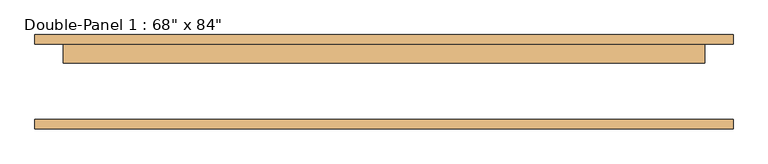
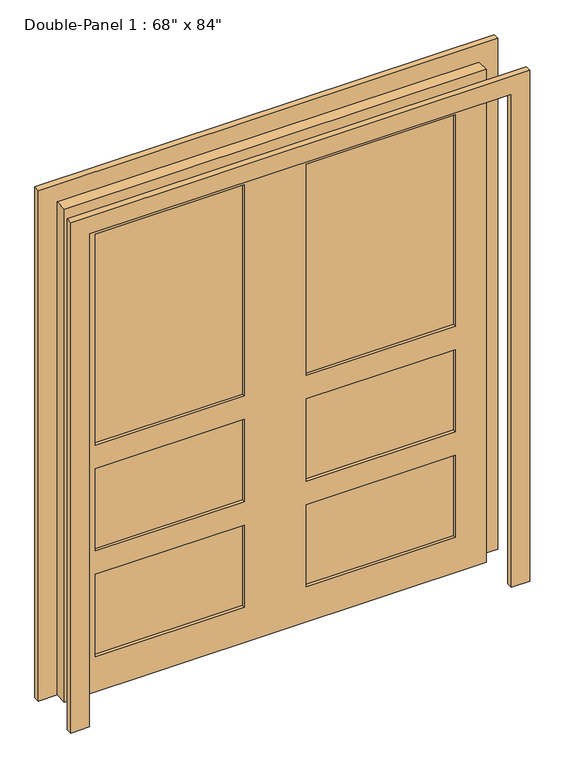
"""IFC4 building model written with IfcOpenShell, lengths in millimetres: door geometry."""

from ifc_helpers import new_model, si_unit, frame, origin, place, context, project, spatial, polyline, outline, extrude, source, transform, mapped, element, save


def door_5eeea989(model_context):
    return source(origin(), model_context, "Body", "SweptSolid", [
        extrude(outline(polyline([(2209.8, -939.8), (0.0, -939.8), (0.0, -863.6), (2133.6, -863.6), (2133.6, 863.6), (0.0, 863.6), (0.0, 939.8), (2209.8, 939.8), (2209.8, -939.8)])), frame((0.0, 101.6, 0.0), z_axis=(0.0, 1.0, 0.0), x_axis=(0.0, 0.0, 1.0)), (0.0, 0.0, 1.0), 25.4),
        extrude(outline(polyline([(127.0, 88.9), (736.6, 88.9), (736.6, 63.5), (127.0, 63.5), (127.0, 88.9)])), frame((0.0, 0.0, 1066.8), z_axis=(0.0, 0.0, 1.0), x_axis=(1.0, 0.0, 0.0)), (0.0, 0.0, 1.0), 914.4),
        extrude(outline(polyline([(127.0, 88.9), (736.6, 88.9), (736.6, 63.5), (127.0, 63.5), (127.0, 88.9)])), frame((0.0, 0.0, 609.6), z_axis=(0.0, 0.0, 1.0), x_axis=(1.0, 0.0, 0.0)), (0.0, 0.0, 1.0), 355.6),
        extrude(outline(polyline([(127.0, 88.9), (736.6, 88.9), (736.6, 63.5), (127.0, 63.5), (127.0, 88.9)])), frame((0.0, 0.0, 152.4), z_axis=(0.0, 0.0, 1.0), x_axis=(1.0, 0.0, 0.0)), (0.0, 0.0, 1.0), 355.6),
        extrude(outline(polyline([(-736.6, 88.9), (-127.0, 88.9), (-127.0, 63.5), (-736.6, 63.5), (-736.6, 88.9)])), frame((0.0, 0.0, 1066.8), z_axis=(0.0, 0.0, 1.0), x_axis=(1.0, 0.0, 0.0)), (0.0, 0.0, 1.0), 914.4),
        extrude(outline(polyline([(-736.6, 88.9), (-127.0, 88.9), (-127.0, 63.5), (-736.6, 63.5), (-736.6, 88.9)])), frame((0.0, 0.0, 609.6), z_axis=(0.0, 0.0, 1.0), x_axis=(1.0, 0.0, 0.0)), (0.0, 0.0, 1.0), 355.6),
        extrude(outline(polyline([(-736.6, 88.9), (-127.0, 88.9), (-127.0, 63.5), (-736.6, 63.5), (-736.6, 88.9)])), frame((0.0, 0.0, 152.4), z_axis=(0.0, 0.0, 1.0), x_axis=(1.0, 0.0, 0.0)), (0.0, 0.0, 1.0), 355.6),
        extrude(outline(polyline([(2133.6, -863.6), (0.0, -863.6), (0.0, 863.6), (2133.6, 863.6), (2133.6, -863.6)]), holes=[polyline([(1981.2, 127.0), (1981.2, 736.6), (1066.8, 736.6), (1066.8, 127.0), (1981.2, 127.0)]), polyline([(609.6, 736.6), (609.6, 127.0), (965.2, 127.0), (965.2, 736.6), (609.6, 736.6)]), polyline([(508.0, 736.6), (152.4, 736.6), (152.4, 127.0), (508.0, 127.0), (508.0, 736.6)]), polyline([(1981.2, -127.0), (1066.8, -127.0), (1066.8, -736.6), (1981.2, -736.6), (1981.2, -127.0)]), polyline([(965.2, -736.6), (965.2, -127.0), (609.6, -127.0), (609.6, -736.6), (965.2, -736.6)]), polyline([(152.4, -127.0), (152.4, -736.6), (508.0, -736.6), (508.0, -127.0), (152.4, -127.0)])]), frame((0.0, 50.8, 0.0), z_axis=(0.0, 1.0, 0.0), x_axis=(0.0, 0.0, 1.0)), (0.0, 0.0, 1.0), 50.8),
        extrude(outline(polyline([(2133.6, -863.6), (2133.6, 863.6), (0.0, 863.6), (0.0, 939.8), (2209.8, 939.8), (2209.8, -939.8), (0.0, -939.8), (0.0, -863.6), (2133.6, -863.6)])), frame((0.0, -127.0, 0.0), z_axis=(0.0, 1.0, 0.0), x_axis=(0.0, 0.0, 1.0)), (0.0, 0.0, 1.0), 25.4),
    ])


if __name__ == "__main__":
    model = new_model("IFC4")
    model_context = context("Model", 3, world=origin())
    ifc_project = project(units=[si_unit("LENGTHUNIT", "METRE", prefix="MILLI")], contexts=[model_context])
    site = spatial("IfcSite", under=ifc_project)
    building = spatial("IfcBuilding", under=site)
    placement = place(None, origin())
    door_shape = door_5eeea989(model_context)
    element("IfcDoor", 1, ObjectType="Double-Panel 1 : 68\" x 84\"", at=placement, inside=building, context=model_context, shape_type="MappedRepresentation", body=[
        mapped(door_shape, transform((0.0, 0.0, 0.0), x_axis=(1.0, 0.0, 0.0), y_axis=(0.0, 1.0, 0.0), z_axis=(0.0, 0.0, 1.0))),
    ])
    save(model, "model.ifc")
